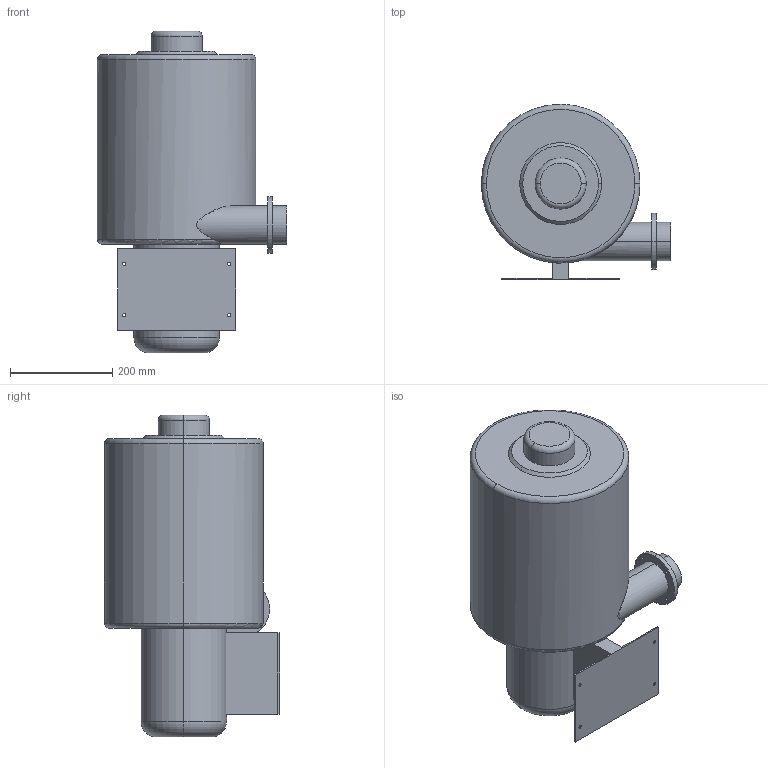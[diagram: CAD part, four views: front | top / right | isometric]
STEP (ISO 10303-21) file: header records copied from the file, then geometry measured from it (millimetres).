
FILE_DESCRIPTION (( 'STEP AP203' ), '1' );
FILE_NAME ('750-75-5.STEP', '2019-05-09T03:28:59', ( 'User' ), ( 'www.dadighost.com' ), 'SwSTEP 2.0', 'SolidWorks 2014', '' );
FILE_SCHEMA (( 'CONFIG_CONTROL_DESIGN' ));
Length unit declared in the file: millimetre
Products named in the file (1): 750-75-5
Bounding box: 370 x 342 x 629 mm (x, y, z)
Volume: 33610024.2 mm3; surface area: 790472.8 mm2
Topology: 1 solids, 1 shells, 60 faces, 143 edges, 92 vertices
Faces by surface type: cylinder 31, plane 17, torus 10, cone 2
Entity records: 2196 total; most frequent: CARTESIAN_POINT 631, DIRECTION 338, ORIENTED_EDGE 286, EDGE_CURVE 143, AXIS2_PLACEMENT_3D 142, VERTEX_POINT 92, EDGE_LOOP 83, CIRCLE 81
